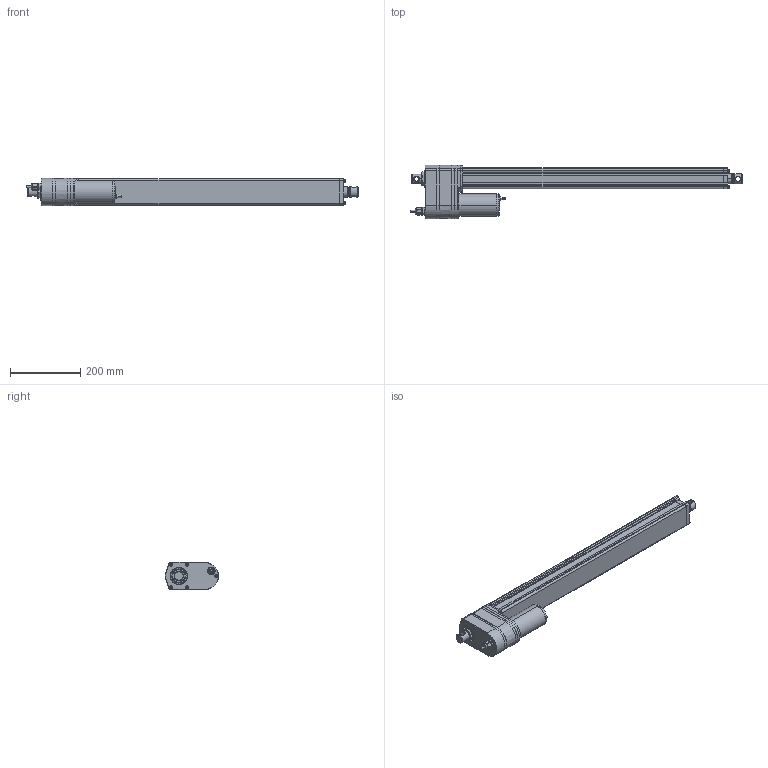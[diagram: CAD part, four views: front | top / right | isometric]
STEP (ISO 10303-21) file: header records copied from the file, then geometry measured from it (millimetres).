
FILE_DESCRIPTION((''),' ');
FILE_NAME('dszy12-600_lt_ltpot_lths.stp',' ',('MSW'),('MSW'),' ','ACIS 14.0',' ');
FILE_SCHEMA(('automotive_design'));
Length unit declared in the file: inch
Products named in the file (2): dszy12-600_lt_ltpot_lths
Bounding box: 942 x 151.7 x 77.2 mm (x, y, z)
Volume: 4136559.7 mm3; surface area: 484983.1 mm2
Topology: 2 solids, 2 shells, 1687 faces, 4097 edges, 2434 vertices
Faces by surface type: plane 1327, cylinder 232, cone 64, torus 40, bspline 24
Entity records: 62295 total; most frequent: CARTESIAN_POINT 8791, DIRECTION 8725, ORIENTED_EDGE 8146, EDGE_CURVE 4073, AXIS2_PLACEMENT_3D 3043, LINE 2639, VECTOR 2639, VERTEX_POINT 2434
